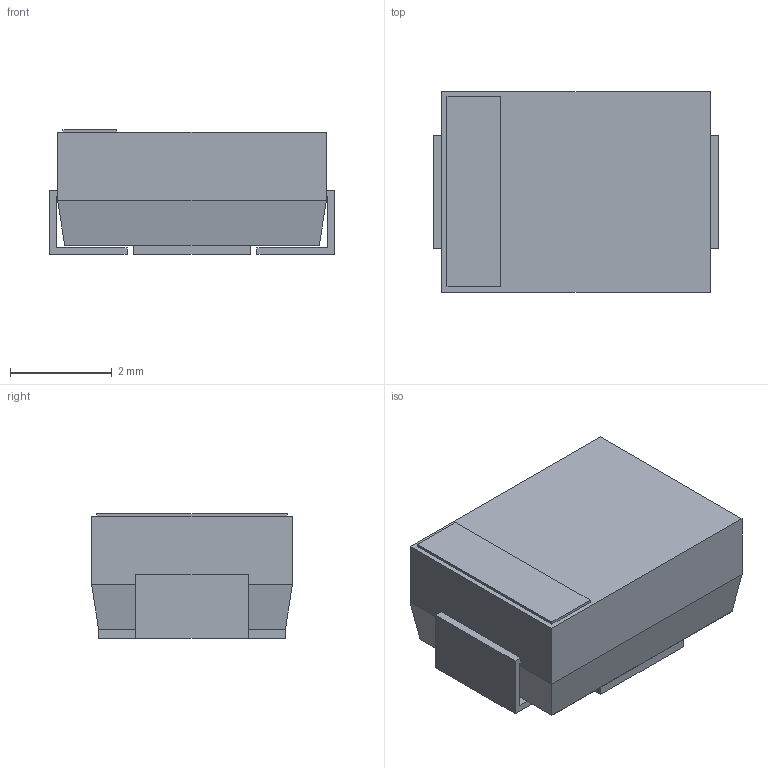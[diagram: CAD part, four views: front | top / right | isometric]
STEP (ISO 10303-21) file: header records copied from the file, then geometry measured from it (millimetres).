
FILE_DESCRIPTION(('STEP AP214'),'1');
FILE_NAME('SMB','2019-09-14T17:18:05',(''),(''),'','','');
FILE_SCHEMA(('AUTOMOTIVE_DESIGN'));
Length unit declared in the file: millimetre
Products named in the file (1): product
Bounding box: 5.59 x 3.94 x 2.45 mm (x, y, z)
Surface area: 116.5 mm2 (no closed solid volume)
Topology: 0 solids, 42 shells, 42 faces, 184 edges, 184 vertices
Faces by surface type: plane 42
Entity records: 2093 total; most frequent: CARTESIAN_POINT 411, VERTEX_POINT 368, DIRECTION 270, ORIENTED_EDGE 184, EDGE_CURVE 184, LINE 184, VECTOR 184, AXIS2_PLACEMENT_3D 43
